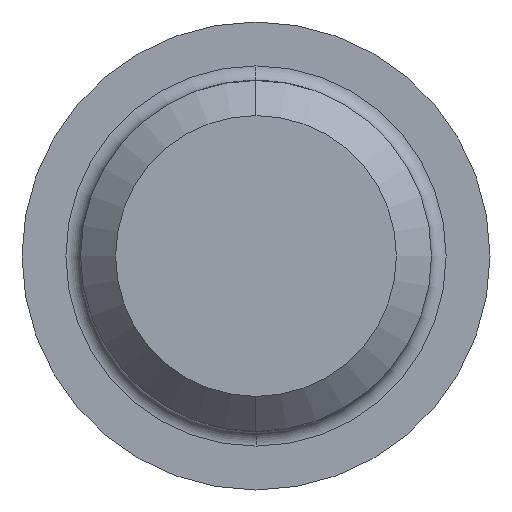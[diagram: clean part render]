
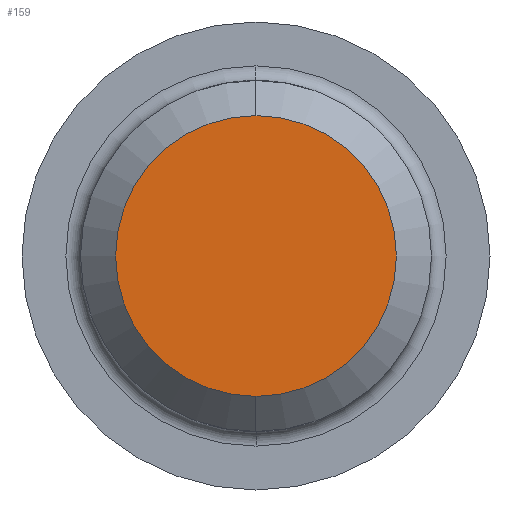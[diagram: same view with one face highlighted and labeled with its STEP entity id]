
A CAD part, left-side view. The second image highlights one B-rep face of the part: STEP entity #159.
In plain terms, the highlighted planar face has unit normal (-1, 0, 0).
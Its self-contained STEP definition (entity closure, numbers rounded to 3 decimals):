
#31 = EDGE_CURVE ( 'NONE', #82, #92, #199, .T. ) ;
#82 = VERTEX_POINT ( 'NONE', #313 ) ;
#92 = VERTEX_POINT ( 'NONE', #362 ) ;
#132 = EDGE_LOOP ( 'NONE', ( #161, #162 ) ) ;
#147 = EDGE_CURVE ( 'NONE', #92, #82, #485, .T. ) ;
#159 = ADVANCED_FACE ( 'NONE', ( #495 ), #467, .F. ) ;
#161 = ORIENTED_EDGE ( 'NONE', *, *, #147, .T. ) ;
#162 = ORIENTED_EDGE ( 'NONE', *, *, #31, .T. ) ;
#199 = CIRCLE ( 'NONE', #202, 4.8 ) ;
#202 = AXIS2_PLACEMENT_3D ( 'NONE', #278, #210, #255 ) ;
#210 = DIRECTION ( 'NONE',  ( -1., 0., 0. ) ) ;
#255 = DIRECTION ( 'NONE',  ( 0., 0., 1. ) ) ;
#278 = CARTESIAN_POINT ( 'NONE',  ( -40., 0., 0. ) ) ;
#313 = CARTESIAN_POINT ( 'NONE',  ( -40., 0., 4.8 ) ) ;
#362 = CARTESIAN_POINT ( 'NONE',  ( -40., 0., -4.8 ) ) ;
#464 = AXIS2_PLACEMENT_3D ( 'NONE', #479, #510, #509 ) ;
#467 = PLANE ( 'NONE',  #499 ) ;
#478 = DIRECTION ( 'NONE',  ( 0., 0., -1. ) ) ;
#479 = CARTESIAN_POINT ( 'NONE',  ( -40., 0., 0. ) ) ;
#485 = CIRCLE ( 'NONE', #464, 4.8 ) ;
#491 = DIRECTION ( 'NONE',  ( 1., 0., 0. ) ) ;
#495 = FACE_OUTER_BOUND ( 'NONE', #132, .T. ) ;
#498 = CARTESIAN_POINT ( 'NONE',  ( -40., 4.8, 0. ) ) ;
#499 = AXIS2_PLACEMENT_3D ( 'NONE', #498, #491, #478 ) ;
#509 = DIRECTION ( 'NONE',  ( 0., 0., 1. ) ) ;
#510 = DIRECTION ( 'NONE',  ( -1., 0., 0. ) ) ;
